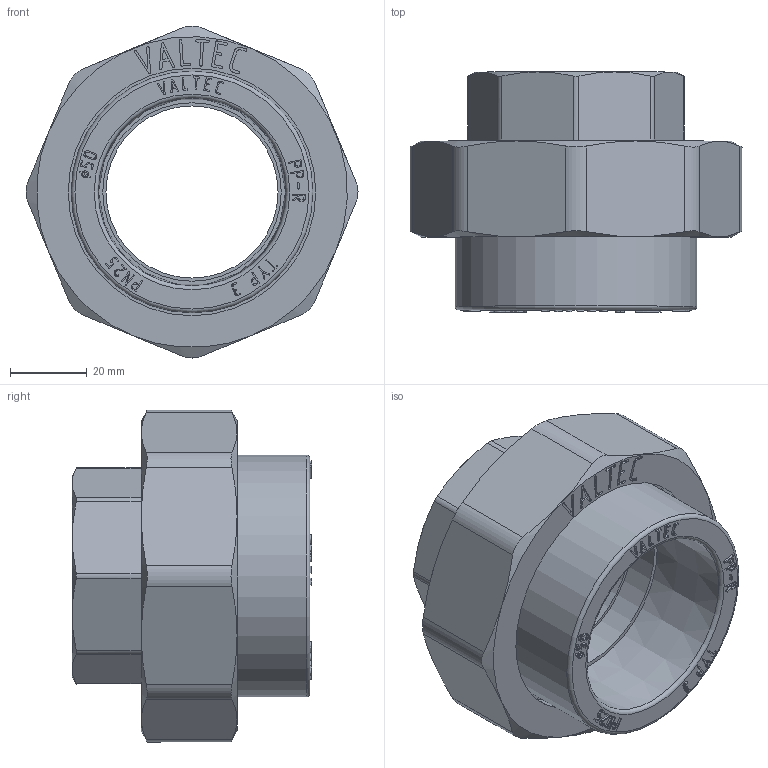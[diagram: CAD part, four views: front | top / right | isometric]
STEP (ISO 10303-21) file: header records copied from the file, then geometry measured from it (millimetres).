
FILE_DESCRIPTION(('STEP AP203'), '1');
FILE_NAME('VTp.762.0.05008', '2026-07-17T12:35:13', ('ledenevaEA'), (''), 'C3D Converter', 'C3D Toolkit', '');
FILE_SCHEMA(('CONFIG_CONTROL_DESIGN'));
Length unit declared in the file: millimetre
Products named in the file (1): ВР.302634.116.000 СБ
Bounding box: 86.52 x 62.5 x 86.52 mm (x, y, z)
Volume: 128588.6 mm3; surface area: 31774.3 mm2
Topology: 1 solids, 1 shells, 707 faces, 1965 edges, 1303 vertices
Faces by surface type: extrusion 384, plane 280, cone 21, cylinder 20, torus 2
Full cylindrical faces by diameter (mm): 44.846 x1, 46.5 x1, 63 x1, 64.5 x1
Entity records: 24562 total; most frequent: CARTESIAN_POINT 8094, ORIENTED_EDGE 3902, DIRECTION 2188, EDGE_CURVE 1951, VECTOR 1464, VERTEX_POINT 1301, B_SPLINE_CURVE_WITH_KNOTS 1215, LINE 1080
